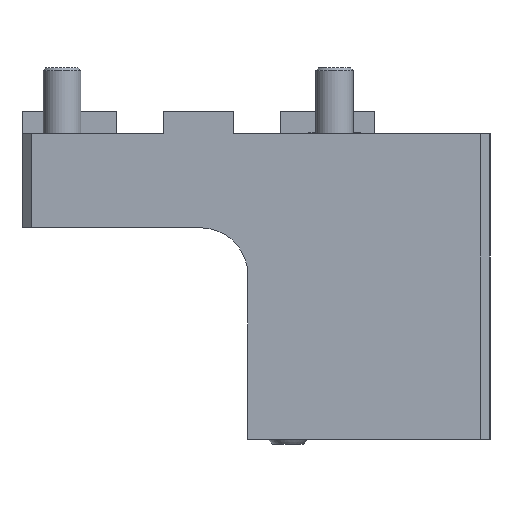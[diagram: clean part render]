
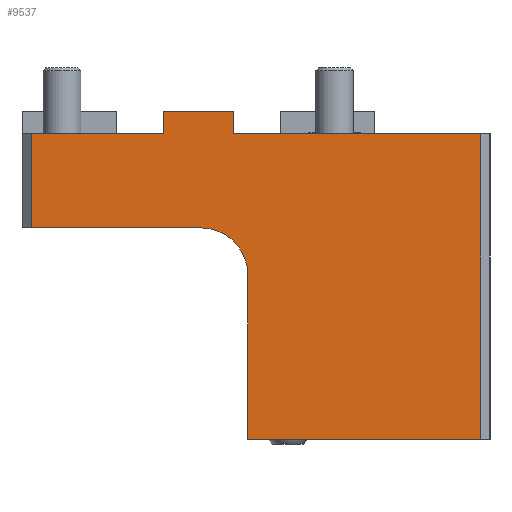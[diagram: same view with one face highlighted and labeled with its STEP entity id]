
A CAD part, front view. The second image highlights one B-rep face of the part: STEP entity #9537.
In plain terms, the highlighted planar face has unit normal (0, -1, 0).
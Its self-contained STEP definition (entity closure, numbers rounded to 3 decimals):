
#4320=CIRCLE('',#9052,10.);
#4499=ORIENTED_EDGE('',*,*,#6188,.T.);
#4500=ORIENTED_EDGE('',*,*,#6189,.T.);
#4501=ORIENTED_EDGE('',*,*,#6190,.F.);
#4502=ORIENTED_EDGE('',*,*,#6191,.F.);
#4503=ORIENTED_EDGE('',*,*,#6192,.T.);
#4504=ORIENTED_EDGE('',*,*,#6193,.F.);
#4505=ORIENTED_EDGE('',*,*,#6167,.T.);
#4506=ORIENTED_EDGE('',*,*,#6179,.T.);
#4507=ORIENTED_EDGE('',*,*,#6180,.T.);
#4508=ORIENTED_EDGE('',*,*,#6194,.T.);
#4509=ORIENTED_EDGE('',*,*,#6195,.F.);
#4510=ORIENTED_EDGE('',*,*,#6196,.T.);
#4511=ORIENTED_EDGE('',*,*,#6197,.F.);
#4512=ORIENTED_EDGE('',*,*,#6198,.F.);
#4513=ORIENTED_EDGE('',*,*,#6199,.F.);
#5280=VECTOR('',#7181,1.);
#5288=VECTOR('',#7199,1.);
#5289=VECTOR('',#7202,1.);
#5294=VECTOR('',#7215,1.);
#5295=VECTOR('',#7216,1.);
#5296=VECTOR('',#7217,1.);
#5297=VECTOR('',#7218,1.);
#5298=VECTOR('',#7221,1.);
#5299=VECTOR('',#7222,1.);
#5300=VECTOR('',#7223,1.);
#5301=VECTOR('',#7224,1.);
#5302=VECTOR('',#7225,1.);
#5303=VECTOR('',#7226,1.);
#5304=VECTOR('',#7227,1.);
#5571=LINE('',#8161,#5280);
#5579=LINE('',#8184,#5288);
#5580=LINE('',#8187,#5289);
#5585=LINE('',#8204,#5294);
#5586=LINE('',#8206,#5295);
#5587=LINE('',#8208,#5296);
#5588=LINE('',#8210,#5297);
#5589=LINE('',#8213,#5298);
#5590=LINE('',#8215,#5299);
#5591=LINE('',#8217,#5300);
#5592=LINE('',#8219,#5301);
#5593=LINE('',#8221,#5302);
#5594=LINE('',#8223,#5303);
#5595=LINE('',#8224,#5304);
#5864=VERTEX_POINT('',#8158);
#5865=VERTEX_POINT('',#8160);
#5875=VERTEX_POINT('',#8182);
#5876=VERTEX_POINT('',#8186);
#5883=VERTEX_POINT('',#8202);
#5884=VERTEX_POINT('',#8203);
#5885=VERTEX_POINT('',#8205);
#5886=VERTEX_POINT('',#8207);
#5887=VERTEX_POINT('',#8209);
#5888=VERTEX_POINT('',#8211);
#5889=VERTEX_POINT('',#8214);
#5890=VERTEX_POINT('',#8216);
#5891=VERTEX_POINT('',#8218);
#5892=VERTEX_POINT('',#8220);
#5893=VERTEX_POINT('',#8222);
#6167=EDGE_CURVE('',#5865,#5864,#5571,.T.);
#6179=EDGE_CURVE('',#5864,#5875,#5579,.T.);
#6180=EDGE_CURVE('',#5875,#5876,#5580,.T.);
#6188=EDGE_CURVE('',#5883,#5884,#5585,.T.);
#6189=EDGE_CURVE('',#5884,#5885,#5586,.T.);
#6190=EDGE_CURVE('',#5886,#5885,#5587,.T.);
#6191=EDGE_CURVE('',#5887,#5886,#5588,.T.);
#6192=EDGE_CURVE('',#5887,#5888,#4320,.T.);
#6193=EDGE_CURVE('',#5865,#5888,#5589,.T.);
#6194=EDGE_CURVE('',#5876,#5889,#5590,.T.);
#6195=EDGE_CURVE('',#5890,#5889,#5591,.T.);
#6196=EDGE_CURVE('',#5890,#5891,#5592,.T.);
#6197=EDGE_CURVE('',#5892,#5891,#5593,.T.);
#6198=EDGE_CURVE('',#5893,#5892,#5594,.T.);
#6199=EDGE_CURVE('',#5883,#5893,#5595,.T.);
#6581=EDGE_LOOP('',(#4499,#4500,#4501,#4502,#4503,#4504,#4505,#4506,#4507,
#4508,#4509,#4510,#4511,#4512,#4513));
#6858=FACE_BOUND('',#6581,.T.);
#7181=DIRECTION('',(49.5,0.,0.));
#7199=DIRECTION('',(0.,0.,65.));
#7202=DIRECTION('',(-52.211,0.,0.));
#7213=DIRECTION('',(0.,-1.,0.));
#7214=DIRECTION('',(-1.,0.,0.));
#7215=DIRECTION('',(-0.029,0.,0.05));
#7216=DIRECTION('',(-27.711,0.,0.));
#7217=DIRECTION('',(0.,0.,20.));
#7218=DIRECTION('',(-36.,0.,0.));
#7219=DIRECTION('',(0.,1.,0.));
#7220=DIRECTION('',(0.,0.,-10.));
#7221=DIRECTION('',(0.,0.,35.));
#7222=DIRECTION('',(-0.029,0.,-0.05));
#7223=DIRECTION('',(0.26,0.,0.));
#7224=DIRECTION('',(0.,0.,4.8));
#7225=DIRECTION('',(15.,0.,0.));
#7226=DIRECTION('',(0.,0.,4.8));
#7227=DIRECTION('',(0.26,0.,0.));
#8158=CARTESIAN_POINT('',(60.,-37.5,-64.));
#8160=CARTESIAN_POINT('',(10.5,-37.5,-64.));
#8161=CARTESIAN_POINT('',(10.5,-37.5,-64.));
#8182=CARTESIAN_POINT('',(60.,-37.5,1.));
#8184=CARTESIAN_POINT('',(60.,-37.5,-64.));
#8186=CARTESIAN_POINT('',(7.789,-37.5,1.));
#8187=CARTESIAN_POINT('',(60.,-37.5,1.));
#8201=CARTESIAN_POINT('',(-35.5,-37.5,-64.));
#8202=CARTESIAN_POINT('',(-7.76,-37.5,0.95));
#8203=CARTESIAN_POINT('',(-7.789,-37.5,1.));
#8204=CARTESIAN_POINT('',(-7.76,-37.5,0.95));
#8205=CARTESIAN_POINT('',(-35.5,-37.5,1.));
#8206=CARTESIAN_POINT('',(-7.789,-37.5,1.));
#8207=CARTESIAN_POINT('',(-35.5,-37.5,-19.));
#8208=CARTESIAN_POINT('',(-35.5,-37.5,-19.));
#8209=CARTESIAN_POINT('',(0.5,-37.5,-19.));
#8210=CARTESIAN_POINT('',(0.5,-37.5,-19.));
#8211=CARTESIAN_POINT('',(10.5,-37.5,-29.));
#8212=CARTESIAN_POINT('',(0.5,-37.5,-29.));
#8213=CARTESIAN_POINT('',(10.5,-37.5,-64.));
#8214=CARTESIAN_POINT('',(7.76,-37.5,0.95));
#8215=CARTESIAN_POINT('',(7.789,-37.5,1.));
#8216=CARTESIAN_POINT('',(7.5,-37.5,0.95));
#8217=CARTESIAN_POINT('',(7.5,-37.5,0.95));
#8218=CARTESIAN_POINT('',(7.5,-37.5,5.75));
#8219=CARTESIAN_POINT('',(7.5,-37.5,0.95));
#8220=CARTESIAN_POINT('',(-7.5,-37.5,5.75));
#8221=CARTESIAN_POINT('',(-7.5,-37.5,5.75));
#8222=CARTESIAN_POINT('',(-7.5,-37.5,0.95));
#8223=CARTESIAN_POINT('',(-7.5,-37.5,0.95));
#8224=CARTESIAN_POINT('',(-7.76,-37.5,0.95));
#9051=AXIS2_PLACEMENT_3D('',#8201,#7213,#7214);
#9052=AXIS2_PLACEMENT_3D('',#8212,#7219,#7220);
#9375=PLANE('',#9051);
#9537=ADVANCED_FACE('',(#6858),#9375,.T.);
